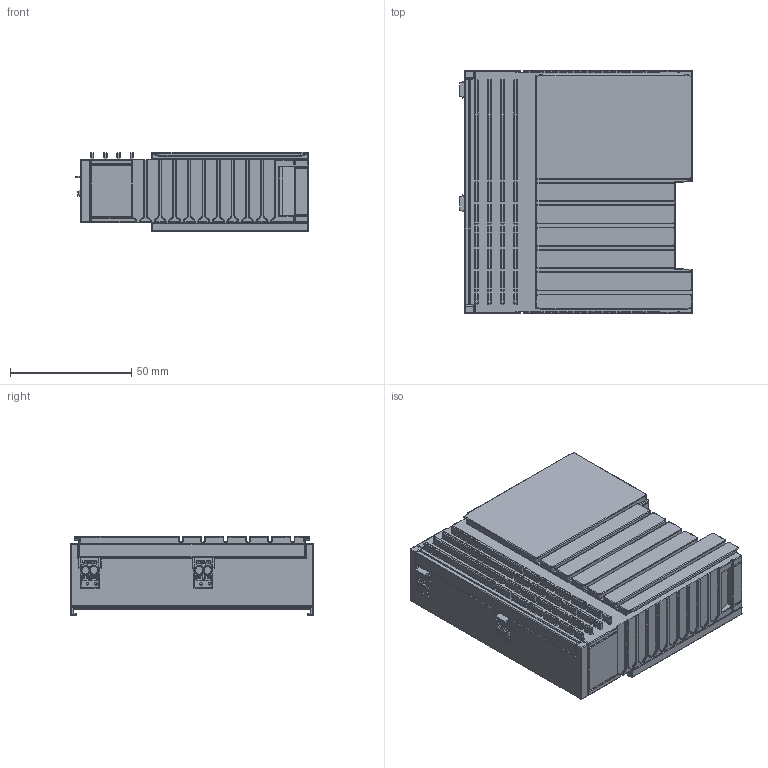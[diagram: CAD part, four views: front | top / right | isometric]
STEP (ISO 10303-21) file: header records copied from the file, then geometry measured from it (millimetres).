
FILE_DESCRIPTION(/* description */ ('EtherCAT-Klemme 30mm 2 x 2 pin (1-0-1-0)'),/* implementation_level */ '2;1');
FILE_NAME(/* name */ 'ethercat_terminal_30mm_2x2pin_(1-0-1-0).stp',/* time_stamp */ '2024-11-21T10:33:15+01:00',/* author */ ('LarsSo'),/* organization */ (''),/* preprocessor_version */ 'ST-DEVELOPER v20',/* originating_system */ 'Autodesk Inventor 2024',/* authorisation */ '');
FILE_SCHEMA (('AUTOMOTIVE_DESIGN { 1 0 10303 214 3 1 1 }'));
Length unit declared in the file: millimetre
Products named in the file (1): 0000020388_EtherCAT_terminal_30mm_2x2pin_(1-0-1-0)
Bounding box: 95.7 x 100 x 32.7 mm (x, y, z)
Volume: 259327.3 mm3; surface area: 36529.9 mm2
Topology: 1 solids, 1 shells, 2133 faces, 4818 edges, 2731 vertices
Faces by surface type: cylinder 971, plane 616, sphere 316, torus 218, cone 12
Entity records: 59024 total; most frequent: DIRECTION 11255, CARTESIAN_POINT 9873, ORIENTED_EDGE 9636, EDGE_CURVE 4818, AXIS2_PLACEMENT_3D 4337, VERTEX_POINT 2731, LINE 2581, VECTOR 2581
